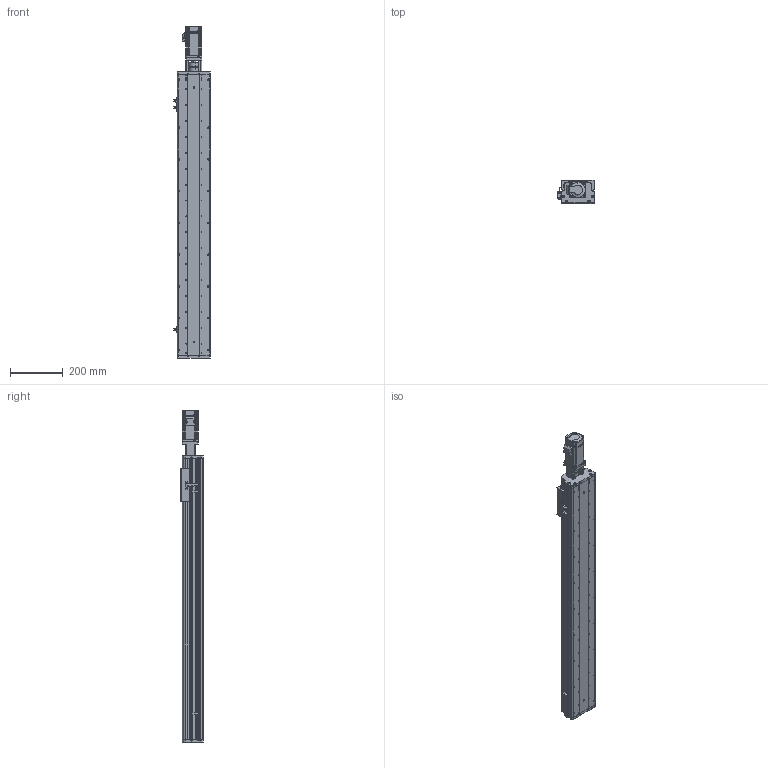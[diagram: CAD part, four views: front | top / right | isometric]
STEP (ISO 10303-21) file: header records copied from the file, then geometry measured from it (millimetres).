
FILE_DESCRIPTION (( 'STEP AP214' ), '1' );
FILE_NAME ('KSD125S-S850-MT-CM.STEP', '2017-08-07T06:48:35', ( '微软用户' ), ( '微软中国' ), 'SwSTEP 2.0', 'SolidWorks 2014', '' );
FILE_SCHEMA (( 'AUTOMOTIVE_DESIGN' ));
Length unit declared in the file: millimetre
Products named in the file (13): KSD125-賑雄釱1; KSD125S-850俴最佪裝滅鳥裔; MHMD042G1CA_2_03; 100遵鎮湛假蚾啣1 ; 拸萇儂釱滅袉菜; 覜茼え68遵圉猾敕; U倰嫖萇假蚾璃; KSD125S-850俴最佪裝菁啣; U倰嫖萇EEㄜSX672; ヶ傷啣-125遵耀郪; CS-34X32-10X14; 125-帣傷啣1; KSD125S-S850-MT-CM
Assembly tree (16 placements, depth 2):
  KSD125S-S850-MT-CM
    125-帣傷啣1
    CS-34X32-10X14
    ヶ傷啣-125遵耀郪
    U倰嫖萇EEㄜSX672  x3
    U倰嫖萇假蚾璃  x3
    覜茼え68遵圉猾敕
    拸萇儂釱滅袉菜
    100遵鎮湛假蚾啣1 
    MHMD042G1CA_2_03
    KSD125-賑雄釱1
    KSD125S-850俴最佪裝菁啣
    KSD125S-850俴最佪裝滅鳥裔
Bounding box: 138.7 x 86 x 1253.5 mm (x, y, z)
Volume: 3504895 mm3; surface area: 1152715.8 mm2
Topology: 15 solids, 18 shells, 1572 faces, 4538 edges, 2987 vertices
Faces by surface type: cylinder 814, plane 645, cone 91, bspline 22
Entity records: 55639 total; most frequent: CARTESIAN_POINT 11658, DIRECTION 7992, ORIENTED_EDGE 7584, EDGE_CURVE 3870, AXIS2_PLACEMENT_3D 2963, VERTEX_POINT 2579, VECTOR 2066, LINE 2066
